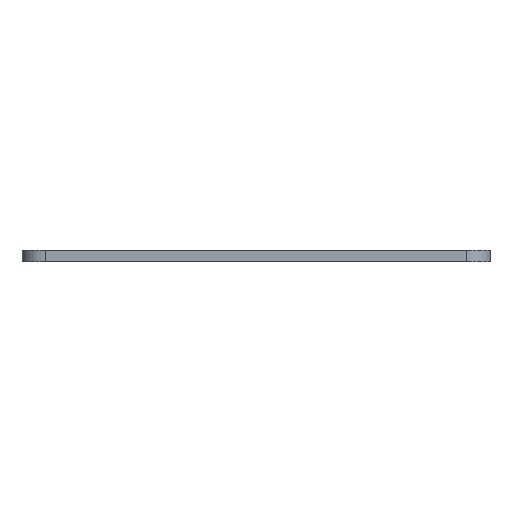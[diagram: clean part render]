
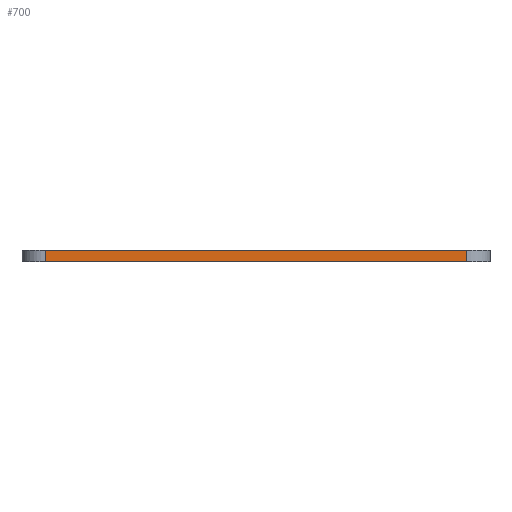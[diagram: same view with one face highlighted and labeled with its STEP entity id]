
A CAD part, left-side view. The second image highlights one B-rep face of the part: STEP entity #700.
In plain terms, the highlighted planar face has unit normal (-1, 0, 0).
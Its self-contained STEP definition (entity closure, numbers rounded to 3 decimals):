
#27 = ORIENTED_EDGE ( 'NONE', *, *, #488, .T. ) ;
#36 = ORIENTED_EDGE ( 'NONE', *, *, #468, .F. ) ;
#42 = CARTESIAN_POINT ( 'NONE',  ( -22.5, 20., 0. ) ) ;
#72 = VECTOR ( 'NONE', #149, 1000. ) ;
#76 = CARTESIAN_POINT ( 'NONE',  ( -22.5, 1., 0.5 ) ) ;
#77 = DIRECTION ( 'NONE',  ( 0., 0., 1. ) ) ;
#84 = LINE ( 'NONE', #42, #72 ) ;
#86 = EDGE_CURVE ( 'NONE', #734, #910, #84, .T. ) ;
#102 = DIRECTION ( 'NONE',  ( 0., 0., -1. ) ) ;
#104 = ORIENTED_EDGE ( 'NONE', *, *, #86, .T. ) ;
#130 = FACE_OUTER_BOUND ( 'NONE', #340, .T. ) ;
#149 = DIRECTION ( 'NONE',  ( 0., -1., 0. ) ) ;
#152 = CARTESIAN_POINT ( 'NONE',  ( -22.5, 19., 0.5 ) ) ;
#174 = CARTESIAN_POINT ( 'NONE',  ( -22.5, 19., 0.5 ) ) ;
#225 = ORIENTED_EDGE ( 'NONE', *, *, #469, .T. ) ;
#340 = EDGE_LOOP ( 'NONE', ( #104, #27, #36, #225 ) ) ;
#355 = CARTESIAN_POINT ( 'NONE',  ( -22.5, 20., 0.5 ) ) ;
#468 = EDGE_CURVE ( 'NONE', #769, #574, #646, .T. ) ;
#469 = EDGE_CURVE ( 'NONE', #769, #734, #682, .T. ) ;
#488 = EDGE_CURVE ( 'NONE', #910, #574, #553, .T. ) ;
#517 = AXIS2_PLACEMENT_3D ( 'NONE', #920, #948, #949 ) ;
#543 = VECTOR ( 'NONE', #77, 1000. ) ;
#553 = LINE ( 'NONE', #76, #543 ) ;
#570 = CARTESIAN_POINT ( 'NONE',  ( -22.5, 1., 0.5 ) ) ;
#574 = VERTEX_POINT ( 'NONE', #570 ) ;
#597 = VECTOR ( 'NONE', #102, 1000. ) ;
#622 = VECTOR ( 'NONE', #746, 1000. ) ;
#646 = LINE ( 'NONE', #355, #622 ) ;
#682 = LINE ( 'NONE', #152, #597 ) ;
#700 = ADVANCED_FACE ( 'NONE', ( #130 ), #940, .F. ) ;
#734 = VERTEX_POINT ( 'NONE', #844 ) ;
#746 = DIRECTION ( 'NONE',  ( 0., -1., 0. ) ) ;
#769 = VERTEX_POINT ( 'NONE', #174 ) ;
#844 = CARTESIAN_POINT ( 'NONE',  ( -22.5, 19., 0. ) ) ;
#910 = VERTEX_POINT ( 'NONE', #941 ) ;
#920 = CARTESIAN_POINT ( 'NONE',  ( -22.5, 20., 0.5 ) ) ;
#940 = PLANE ( 'NONE',  #517 ) ;
#941 = CARTESIAN_POINT ( 'NONE',  ( -22.5, 1., 0. ) ) ;
#948 = DIRECTION ( 'NONE',  ( 1., 0., 0. ) ) ;
#949 = DIRECTION ( 'NONE',  ( 0., 1., 0. ) ) ;
